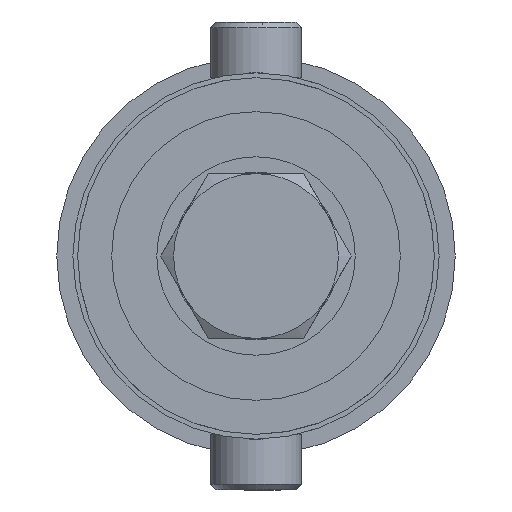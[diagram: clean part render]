
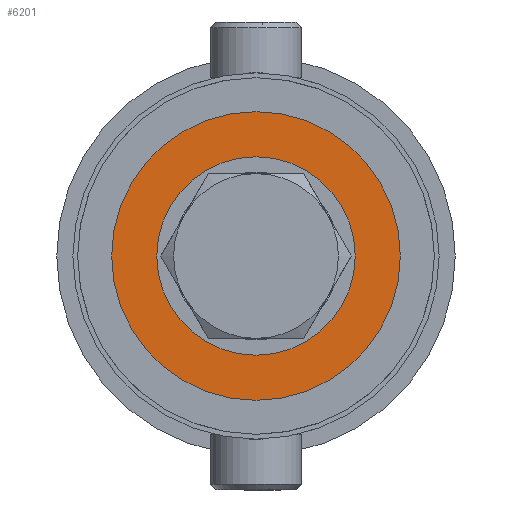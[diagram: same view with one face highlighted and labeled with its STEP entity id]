
A CAD part, left-side view. The second image highlights one B-rep face of the part: STEP entity #6201.
In plain terms, the highlighted planar face has unit normal (-1, 0, 0) as drawn and (0, 0, 1) by its records, which use the part's own axes.
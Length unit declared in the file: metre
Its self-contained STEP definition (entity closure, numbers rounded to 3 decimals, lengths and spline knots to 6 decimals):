
#1075=PLANE('',#7267);
#1456=CIRCLE('',#7268,0.01251);
#1457=CIRCLE('',#7269,0.0086);
#3083=ORIENTED_EDGE('',*,*,#3934,.T.);
#3084=ORIENTED_EDGE('',*,*,#3935,.F.);
#3934=EDGE_CURVE('',#4487,#4487,#1456,.T.);
#3935=EDGE_CURVE('',#4488,#4488,#1457,.T.);
#4487=VERTEX_POINT('',#13808);
#4488=VERTEX_POINT('',#13810);
#5103=EDGE_LOOP('',(#3083));
#5104=EDGE_LOOP('',(#3084));
#5618=FACE_BOUND('',#5103,.T.);
#5619=FACE_BOUND('',#5104,.T.);
#6201=ADVANCED_FACE('',(#5618,#5619),#1075,.F.);
#7267=AXIS2_PLACEMENT_3D('',#13806,#9186,#9187);
#7268=AXIS2_PLACEMENT_3D('',#13807,#9188,#9189);
#7269=AXIS2_PLACEMENT_3D('',#13809,#9190,#9191);
#9186=DIRECTION('',(0.,0.,-1.));
#9187=DIRECTION('',(-1.,0.,0.));
#9188=DIRECTION('',(0.,0.,1.));
#9189=DIRECTION('',(1.,0.,0.));
#9190=DIRECTION('',(0.,0.,1.));
#9191=DIRECTION('',(1.,0.,0.));
#13806=CARTESIAN_POINT('',(0.,0.010755,0.003572));
#13807=CARTESIAN_POINT('',(0.,0.,0.003572));
#13808=CARTESIAN_POINT('',(0.01251,0.,0.003572));
#13809=CARTESIAN_POINT('',(0.,0.,0.003572));
#13810=CARTESIAN_POINT('',(0.0086,0.,0.003572));
